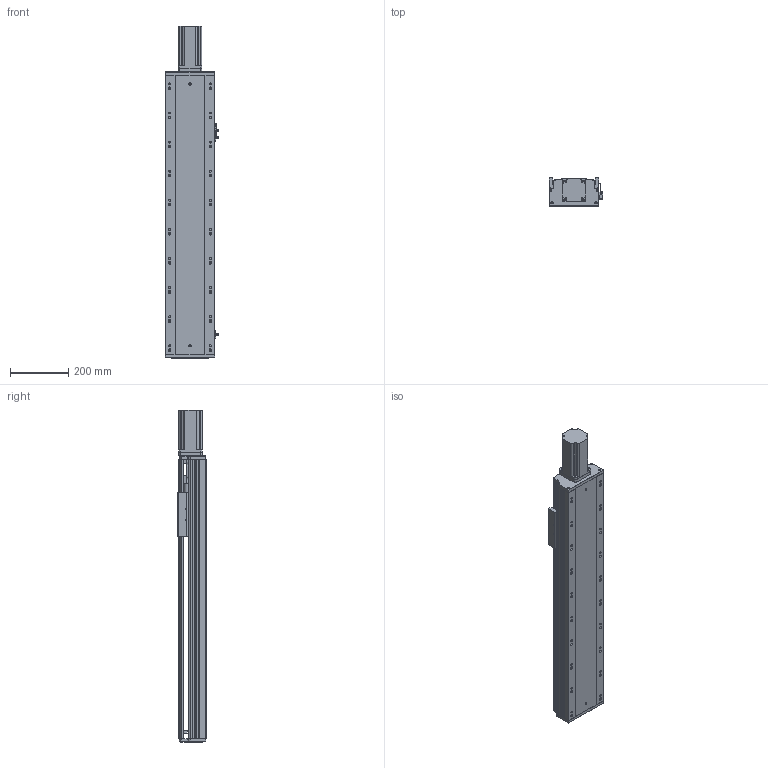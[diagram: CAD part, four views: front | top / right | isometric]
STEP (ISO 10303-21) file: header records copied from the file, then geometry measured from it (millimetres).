
FILE_DESCRIPTION (( 'STEP AP203' ), '1' );
FILE_NAME ('RY170-L2510-300-MK(FK17).SLDASM_650.step', '2022-08-23T02:00:28', ( '' ), ( '' ), 'SwSTEP 2.0', 'SolidWorks 2016', '' );
FILE_SCHEMA (( 'CONFIG_CONTROL_DESIGN' ));
Length unit declared in the file: millimetre
Products named in the file (15): RY170-300倰第裔啣-MK_650; RY170外置感应片(200共用）; 侂狟400W侜督萇儂; 滅袉蝶18-10; 侂狟750W萇儂ㄗ80遺ㄘ; 15; RY170臏賑輸25佪裝蹟譫; RY170-300倰第菁釱-MK_650; RY170-L2510-300-MK(FK17).SLDASM_650; 覜茼ん672; 750W萇儂梓袧蛌諉啣; 滅袉蝶18-28; RY170綴裔啣; RY170ヶ醱裔啣; RY170电机端支撑座(25丝杆7004轴承)-压铸(FK17)
Assembly tree (16 placements, depth 3):
  RY170-L2510-300-MK(FK17).SLDASM_650
    RY170-300倰第菁釱-MK_650
    RY170-300倰第裔啣-MK_650
    RY170臏賑輸25佪裝蹟譫
    侂狟400W侜督萇儂
      15
    RY170綴裔啣
    RY170电机端支撑座(25丝杆7004轴承)-压铸(FK17)
    覜茼ん672  x3
    RY170外置感应片(200共用）
    RY170ヶ醱裔啣
    滅袉蝶18-28
    滅袉蝶18-10
    侂狟750W萇儂ㄗ80遺ㄘ
    750W萇儂梓袧蛌諉啣
Bounding box: 183.7 x 97 x 1141 mm (x, y, z)
Volume: 6268775.7 mm3; surface area: 1788055.8 mm2
Topology: 15 solids, 15 shells, 2233 faces, 6471 edges, 4144 vertices
Faces by surface type: plane 1014, cylinder 952, cone 231, bspline 36
Entity records: 73327 total; most frequent: CARTESIAN_POINT 17394, ORIENTED_EDGE 11674, DIRECTION 11135, EDGE_CURVE 5837, AXIS2_PLACEMENT_3D 3878, VERTEX_POINT 3824, LINE 3379, VECTOR 3379
